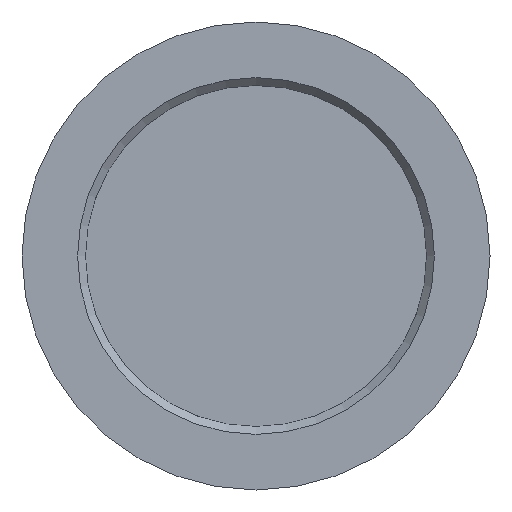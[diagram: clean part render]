
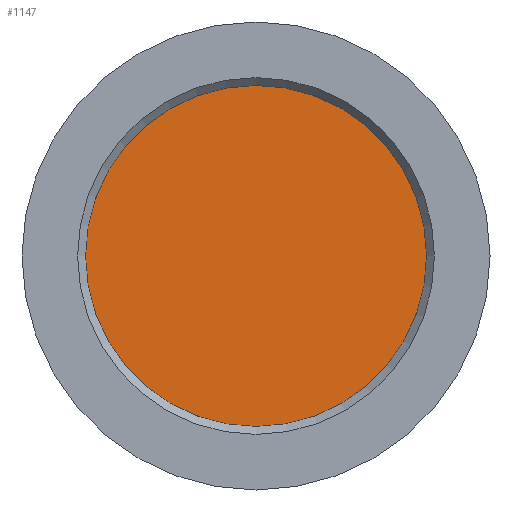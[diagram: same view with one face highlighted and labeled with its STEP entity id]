
A CAD part, front view. The second image highlights one B-rep face of the part: STEP entity #1147.
In plain terms, the highlighted planar face has unit normal (0, -1, 0).
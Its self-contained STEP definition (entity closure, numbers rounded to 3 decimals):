
#358=ORIENTED_EDGE('',*,*,#493,.T.);
#493=EDGE_CURVE('',#590,#590,#682,.F.);
#590=VERTEX_POINT('',#2035);
#682=CIRCLE('',#1364,99.5);
#825=EDGE_LOOP('',(#358));
#996=FACE_BOUND('',#825,.T.);
#1084=PLANE('',#1363);
#1147=ADVANCED_FACE('',(#996),#1084,.F.);
#1363=AXIS2_PLACEMENT_3D('',#2033,#1701,#1702);
#1364=AXIS2_PLACEMENT_3D('',#2034,#1703,#1704);
#1701=DIRECTION('',(0.,1.,0.));
#1702=DIRECTION('',(0.,0.,1.));
#1703=DIRECTION('',(0.,1.,0.));
#1704=DIRECTION('',(0.,0.,1.));
#2033=CARTESIAN_POINT('',(0.,0.,0.));
#2034=CARTESIAN_POINT('',(0.,0.,0.));
#2035=CARTESIAN_POINT('',(0.,0.,99.5));
